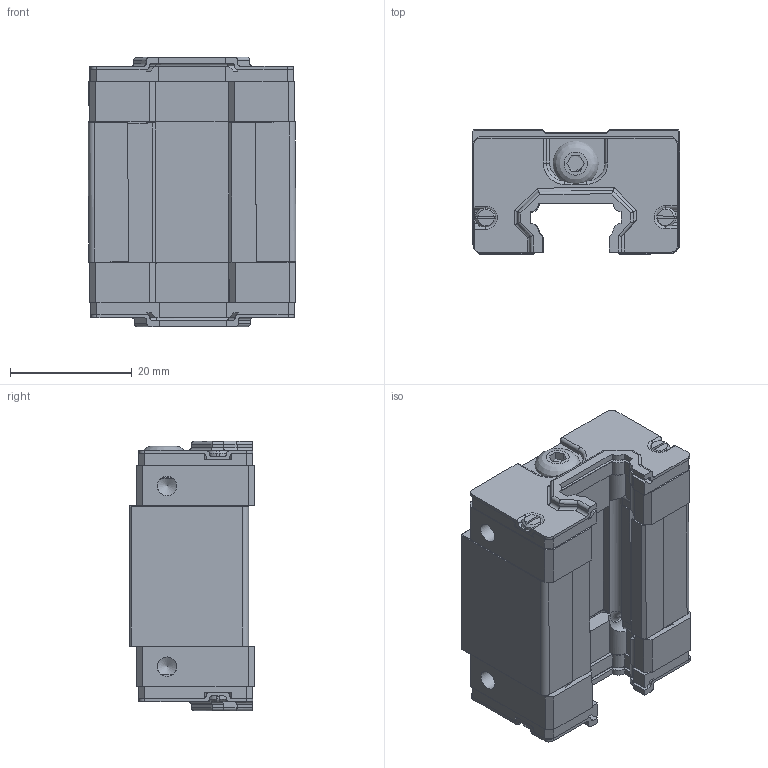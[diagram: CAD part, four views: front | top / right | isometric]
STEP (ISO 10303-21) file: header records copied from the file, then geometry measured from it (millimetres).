
FILE_DESCRIPTION(/* description */ (''),/* implementation_level */ '2;1');
FILE_NAME(/* name */ 'C:\Users\daviddillkoetter\ownCloud\Kamp und Kötter\Artikel\_CAD-Dateien\ZCF-Profilfuehrung\CE\Export\KPFW-15U-BS.stp',/* time_stamp */ '2021-03-22T15:32:47+01:00',/* author */ ('daviddillkoetter'),/* organization */ (''),/* preprocessor_version */ 'ST-DEVELOPER v18.1',/* originating_system */ 'Autodesk Inventor 2021',/* authorisation */ '');
FILE_SCHEMA (('AUTOMOTIVE_DESIGN { 1 0 10303 214 3 1 1 }'));
Length unit declared in the file: millimetre
Products named in the file (10): CE15H-SA; CE15_Teflonumlenker; CE15_Kunststoffkappe; CE15_Schmutzabstreifer; Screw GB 823 M2,5 x 10; DIN 920 - M2,5 x 10; ISO 7380-1 - M4 x 6; CE15_Metallabdeckung; CE15_HSAGrundkoeprerWagen; CE15_SAKunststoffkugelsicherung
Assembly tree (20 placements, depth 2):
  CE15H-SA
    CE15_Teflonumlenker  x2
    CE15_Kunststoffkappe  x2
    CE15_Schmutzabstreifer  x2
    DIN 920 - M2,5 x 10  x4
    Screw GB 823 M2,5 x 10  x4
    ISO 7380-1 - M4 x 6
    CE15_Metallabdeckung  x2
    CE15_HSAGrundkoeprerWagen
    CE15_SAKunststoffkugelsicherung  x2
Bounding box: 34.07 x 20.42 x 44.3 mm (x, y, z)
Volume: 17992 mm3; surface area: 19990.5 mm2
Topology: 20 solids, 20 shells, 1326 faces, 3547 edges, 2300 vertices
Faces by surface type: plane 792, cylinder 368, cone 94, torus 67, sphere 4, bspline 1
Full cylindrical faces by diameter (mm): 0.845 x4, 2.013 x12, 2.208 x4, 2.5 x12, 2.8 x16, 2.9 x8, 3.2 x4, 3.242 x4, 3.5 x4, 4 x1, 4.3 x16, 4.5 x6, 5.8 x2, 7.6 x1
Entity records: 22177 total; most frequent: CARTESIAN_POINT 4251, DIRECTION 3663, ORIENTED_EDGE 3626, EDGE_CURVE 1813, LINE 1229, VECTOR 1229, AXIS2_PLACEMENT_3D 1217, VERTEX_POINT 1178
